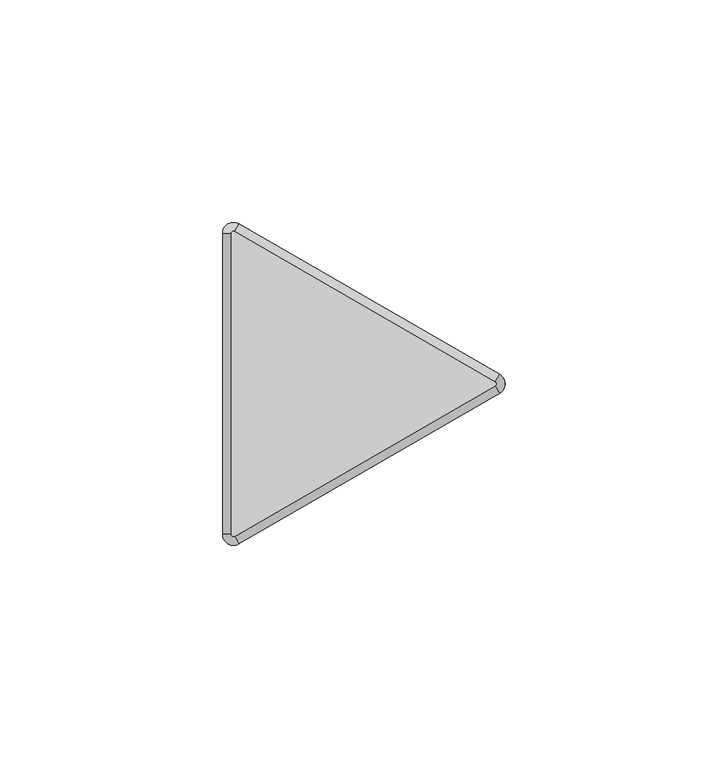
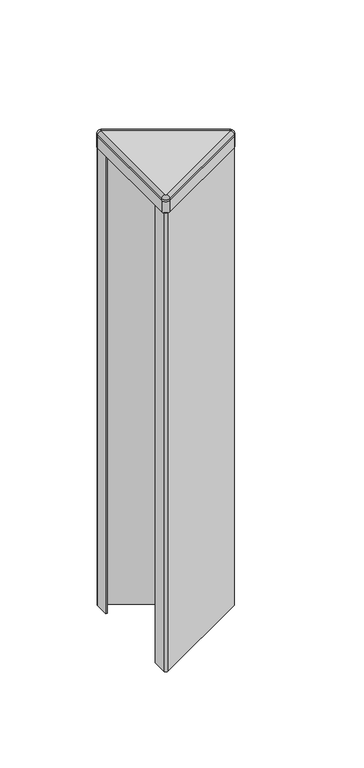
"""IFC4 building model written with IfcOpenShell, lengths in millimetres: furniture geometry, Steelcase - Answer Solution - Panel - 120deg Change-of-Height Trim - Thin : Y Corner - 12H for 84H App."""

from ifc_helpers import new_model, si_unit, point, frame, frame_2d, origin, place, context, project, spatial, polyline, circle_curve, ellipse_curve, trimmed, segment, composite_curve, outline, extrude, source, transform, mapped, element, save
from ifc_brep_helpers import plane_surface, cylinder_surface, revolved_surface, advanced_brep


def furniture_73f96da4(model_context):
    return source(origin(), model_context, "Body", "SolidModel", [
        advanced_brep(
        [(-10.518645, -37.3335529, 2138.0628978), (-14.2052101, -35.2051135, 2138.0628978), (-14.2052101, -35.2051135, 2137.1164663), (-10.518645, -37.3335529, 2137.1164663), (-11.46175, -35.7000471, 2139.95), (-12.319, -35.2051135, 2139.95), (-11.46175, -35.7000471, 2137.1164663), (-12.319, -35.2051135, 2137.1164663), (48.0429908, -3.5229767, 2137.1164663), (48.0429908, -3.5229767, 2138.0628978), (47.0998858, -1.8894709, 2139.95), (47.0998858, -1.8894709, 2137.1164663), (48.0429908, 0.733902, 2138.0628978), (48.0429908, 0.733902, 2137.1164663), (47.0998858, -0.8996038, 2139.95), (47.0998858, -0.8996038, 2137.1164663), (-10.518645, 34.5444782, 2137.1164663), (-14.2052101, 32.4160388, 2137.1164663), (-11.46175, 32.9109723, 2137.1164663), (-12.319, 32.4160388, 2137.1164663), (-10.518645, 34.5444782, 2138.0628978), (-11.46175, 32.9109723, 2139.95), (-14.2052101, 32.4160388, 2138.0628978), (-12.319, 32.4160388, 2139.95)],
        [
            (0, 1, circle_curve(frame((-11.7475, -35.2051135, 2138.0628978), z_axis=(0.0, 0.0, -1.0), x_axis=(-1.0, 0.0, 0.0)), 2.4577101)),
            (1, 2),
            (2, 3, circle_curve(frame((-11.7475, -35.2051135, 2137.1164663), z_axis=(0.0, 0.0, 1.0), x_axis=(-1.0, 0.0, 0.0)), 2.4577101)),
            (3, 0),
            (4, 5, circle_curve(frame((-11.7475, -35.2051135, 2139.95), z_axis=(0.0, 0.0, -1.0), x_axis=(-1.0, 0.0, 0.0)), 0.5715)),
            (5, 1, circle_curve(frame((-12.3181076, -35.2051135, 2138.0628978), z_axis=(0.0, -1.0, 0.0), x_axis=(1.0, 0.0, 0.0)), 1.8871024)),
            (0, 4, circle_curve(frame((-11.4621962, -35.6992743, 2138.0628978), z_axis=(-0.8660254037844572, -0.49999999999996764, 0.0), x_axis=(-0.49999999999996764, 0.8660254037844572, 0.0)), 1.8871024)),
            (6, 7, circle_curve(frame((-11.7475, -35.2051135, 2137.1164663), z_axis=(0.0, 0.0, -1.0), x_axis=(-1.0, 0.0, 0.0)), 0.5715)),
            (7, 5),
            (4, 6),
            (3, 8),
            (8, 9),
            (9, 0),
            (9, 10, circle_curve(frame((47.0994396, -1.8886981, 2138.0628978), z_axis=(-0.8660254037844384, -0.5000000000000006, 0.0), x_axis=(-0.5000000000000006, 0.8660254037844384, 0.0)), 1.8871024)),
            (10, 4),
            (10, 11),
            (11, 6),
            (12, 9, circle_curve(frame((46.8141358, -1.3945374, 2138.0628978), z_axis=(0.0, 0.0, -1.0), x_axis=(0.4999999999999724, -0.8660254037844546, 0.0)), 2.4577101)),
            (8, 13, circle_curve(frame((46.8141358, -1.3945374, 2137.1164663), z_axis=(0.0, 0.0, 1.0), x_axis=(0.4999999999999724, -0.8660254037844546, 0.0)), 2.4577101)),
            (13, 12),
            (14, 10, circle_curve(frame((46.8141358, -1.3945374, 2139.95), z_axis=(0.0, 0.0, -1.0), x_axis=(0.4999999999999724, -0.8660254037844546, 0.0)), 0.5715)),
            (12, 14, circle_curve(frame((47.0994396, -0.9003766, 2138.0628978), z_axis=(0.8660254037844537, -0.49999999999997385, 0.0), x_axis=(-0.49999999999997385, -0.8660254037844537, 0.0)), 1.8871024)),
            (15, 11, circle_curve(frame((46.8141358, -1.3945374, 2137.1164663), z_axis=(0.0, 0.0, -1.0), x_axis=(0.4999999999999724, -0.8660254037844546, 0.0)), 0.5715)),
            (14, 15),
            (16, 13),
            (2, 17),
            (17, 16, circle_curve(frame((-11.7475, 32.4160388, 2137.1164663), z_axis=(0.0, 0.0, -1.0), x_axis=(0.500000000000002, 0.8660254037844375, 0.0)), 2.4577101)),
            (15, 18),
            (18, 19, circle_curve(frame((-11.7475, 32.4160388, 2137.1164663), z_axis=(0.0, 0.0, 1.0), x_axis=(0.500000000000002, 0.8660254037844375, 0.0)), 0.5715)),
            (19, 7),
            (16, 20),
            (20, 12),
            (20, 21, circle_curve(frame((-11.4621962, 32.9101995, 2138.0628978), z_axis=(0.8660254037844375, -0.5000000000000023, 0.0), x_axis=(-0.5000000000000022, -0.8660254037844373, 0.0)), 1.8871024)),
            (21, 14),
            (21, 18),
            (22, 20, circle_curve(frame((-11.7475, 32.4160388, 2138.0628978), z_axis=(0.0, 0.0, -1.0), x_axis=(0.500000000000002, 0.8660254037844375, 0.0)), 2.4577101)),
            (17, 22),
            (23, 21, circle_curve(frame((-11.7475, 32.4160388, 2139.95), z_axis=(0.0, 0.0, -1.0), x_axis=(0.500000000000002, 0.8660254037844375, 0.0)), 0.5715)),
            (22, 23, circle_curve(frame((-12.3181076, 32.4160388, 2138.0628978), z_axis=(0.0, 1.0, 0.0), x_axis=(1.0, 0.0, 0.0)), 1.8871024)),
            (23, 19),
            (1, 22),
            (5, 23),
        ],
        [
            cylinder_surface(frame((-11.7475, -35.2051135, 0.0), z_axis=(0.0, 0.0, 1.0), x_axis=(-1.0, 0.0, 0.0)), 2.4577101),
            revolved_surface(trimmed(ellipse_curve(frame((-12.3181076, -35.2051135, 2138.0628978), z_axis=(0.0, 1.0, 0.0), x_axis=(1.0, 0.0, 0.0)), 1.8871024, 1.8871024), [point((-14.2052101, -35.2051135, 2138.0628978))], [point((-12.319, -35.2051135, 2139.95))], True, "CARTESIAN"), (-11.7475, -35.2051135, 0.0), (0.0, 0.0, 1.0)),
            revolved_surface(polyline([(-12.319, -35.2051135, 2139.95), (-12.319, -35.2051135, 2137.1164663)]), (-11.7475, -35.2051135, 0.0), (0.0, 0.0, 1.0)),
            plane_surface(frame((-10.518645, -37.3335529, 2137.1164663), z_axis=(0.49999999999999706, -0.8660254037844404, 0.0), x_axis=(0.8660254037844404, 0.49999999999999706, 0.0))),
            cylinder_surface(frame((-11.4621962, -35.6992743, 2138.0628978), z_axis=(-0.8660254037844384, -0.5000000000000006, 0.0), x_axis=(-0.5000000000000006, 0.8660254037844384, 0.0)), 1.8871024),
            plane_surface(frame((-11.46175, -35.7000471, 2139.95), z_axis=(-0.500000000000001, 0.8660254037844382, 0.0), x_axis=(0.8660254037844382, 0.500000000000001, 0.0))),
            cylinder_surface(frame((46.8141358, -1.3945374, 0.0), z_axis=(0.0, 0.0, 1.0), x_axis=(0.4999999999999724, -0.8660254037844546, 0.0)), 2.4577101),
            revolved_surface(trimmed(ellipse_curve(frame((47.0994396, -1.8886981, 2138.0628978), z_axis=(-0.8660254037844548, -0.499999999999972, 0.0), x_axis=(-0.499999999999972, 0.8660254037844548, 0.0)), 1.8871024, 1.8871024), [point((48.0429908, -3.5229767, 2138.0628978))], [point((47.0998858, -1.8894709, 2139.95))], True, "CARTESIAN"), (46.8141358, -1.3945374, 0.0), (0.0, 0.0, 1.0)),
            revolved_surface(polyline([(47.09988579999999, -1.8894709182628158, 2139.95), (47.09988579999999, -1.8894709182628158, 2137.1164663)]), (46.8141358, -1.3945374, 0.0), (0.0, 0.0, 1.0)),
            plane_surface(frame((47.0998858, -0.8996038, 2137.1164663), z_axis=(0.0, 0.0, -1.0), x_axis=(-0.8660254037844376, 0.5000000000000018, 0.0))),
            plane_surface(frame((48.0429908, 0.733902, 2137.1164663), z_axis=(0.49999999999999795, 0.8660254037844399, 0.0), x_axis=(-0.8660254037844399, 0.49999999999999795, 0.0))),
            cylinder_surface(frame((47.0994396, -0.9003766, 2138.0628978), z_axis=(0.8660254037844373, -0.5000000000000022, 0.0), x_axis=(-0.5000000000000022, -0.8660254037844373, 0.0)), 1.8871024),
            plane_surface(frame((47.0998858, -0.8996038, 2139.95), z_axis=(-0.5000000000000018, -0.8660254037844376, 0.0), x_axis=(-0.8660254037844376, 0.5000000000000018, 0.0))),
            cylinder_surface(frame((-11.7475, 32.4160388, 0.0), z_axis=(0.0, 0.0, 1.0), x_axis=(0.500000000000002, 0.8660254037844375, 0.0)), 2.4577101),
            revolved_surface(trimmed(ellipse_curve(frame((-11.4621962, 32.9101995, 2138.0628978), z_axis=(0.866025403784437, -0.5000000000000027, 0.0), x_axis=(-0.5000000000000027, -0.866025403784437, 0.0)), 1.8871024, 1.8871024), [point((-10.518645, 34.5444782, 2138.0628978))], [point((-11.46175, 32.9109723, 2139.95))], True, "CARTESIAN"), (-11.7475, 32.4160388, 0.0), (0.0, 0.0, 1.0)),
            revolved_surface(polyline([(-11.461749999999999, 32.91097231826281, 2139.95), (-11.461749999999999, 32.91097231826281, 2137.1164663)]), (-11.7475, 32.4160388, 0.0), (0.0, 0.0, 1.0)),
            plane_surface(frame((-14.2052101, 32.4160388, 2137.1164663), z_axis=(-1.0, 0.0, 0.0), x_axis=(0.0, -1.0, 0.0))),
            cylinder_surface(frame((-12.3181076, 32.4160388, 2138.0628978), z_axis=(0.0, 1.0, 0.0), x_axis=(1.0, 0.0, 0.0)), 1.8871024),
            plane_surface(frame((-12.319, 32.4160388, 2139.95), z_axis=(1.0, 0.0, 0.0), x_axis=(0.0, -1.0, 0.0))),
        ],
        [
            (0, [[1, 2, 3, 4]]),
            (1, [[5, 6, -1, 7]]),
            (2, [[8, 9, -5, 10]]),
            (3, [[-4, 11, 12, 13]]),
            (4, [[-7, -13, 14, 15]]),
            (5, [[-10, -15, 16, 17]]),
            (6, [[18, -12, 19, 20]]),
            (7, [[21, -14, -18, 22]]),
            (8, [[23, -16, -21, 24]]),
            (9, [[25, -19, -11, -3, 26, 27], [-8, -17, -23, 28, 29, 30]]),
            (10, [[-20, -25, 31, 32]]),
            (11, [[-22, -32, 33, 34]]),
            (12, [[-24, -34, 35, -28]]),
            (13, [[36, -31, -27, 37]]),
            (14, [[38, -33, -36, 39]]),
            (15, [[-29, -35, -38, 40]]),
            (16, [[-37, -26, -2, 41]]),
            (17, [[-39, -41, -6, 42]]),
            (18, [[-40, -42, -9, -30]]),
        ],
    ),
        extrude(outline(composite_curve([segment(trimmed(circle_curve(frame_2d((47.9522001, -1.3945374)), 1.2978651), [point((48.6011327, -0.2705532))], [point((48.6011327, -2.5185215))], False, "CARTESIAN"), True, "CONTINUOUS"), segment(polyline([(48.6011327, -2.5185215), (-11.6879343, -37.3264306)]), True, "CONTINUOUS"), segment(trimmed(circle_curve(frame_2d((-12.3300896, -36.2141852)), 1.2843104), [point((-11.6879343, -37.3264306))], [point((-13.6144, -36.2141852))], False, "CARTESIAN"), True, "CONTINUOUS"), segment(polyline([(-13.6144, -36.2141852), (-13.6144, -27.3303775), (-12.7, -27.3303775), (-12.7, -36.8548888), (48.7191304, -1.3945374), (-12.7, 34.0658141), (-12.7, 24.5413027), (-13.6144, 24.5413027), (-13.6144, 33.4106259)]), True, "CONTINUOUS"), segment(trimmed(circle_curve(frame_2d((-12.3217269, 33.4106259)), 1.2926731), [point((-13.6144, 33.4106259))], [point((-11.6753904, 34.5301136))], False, "CARTESIAN"), True, "CONTINUOUS"), segment(polyline([(-11.6753904, 34.5301136), (48.6011327, -0.2705532)]), True, "CONTINUOUS")], self_intersect=False)), frame((0.0, 0.0, 1835.15), z_axis=(0.0, 0.0, 1.0), x_axis=(1.0, 0.0, 0.0)), (0.0, 0.0, 1.0), 294.64),
        extrude(outline(composite_curve([segment(trimmed(circle_curve(frame_2d((46.8261011, -1.3945374)), 0.5655173), [point((47.1088598, -0.904785))], [point((47.1088598, -1.8842897))], False, "CARTESIAN"), True, "CONTINUOUS"), segment(polyline([(47.1088598, -1.8842897), (-11.4505119, -35.6935587)]), True, "CONTINUOUS"), segment(trimmed(circle_curve(frame_2d((-11.7400079, -35.1921369)), 0.5789921), [point((-11.4505119, -35.6935587))], [point((-12.319, -35.1921369))], False, "CARTESIAN"), True, "CONTINUOUS"), segment(polyline([(-12.319, -35.1921369), (-12.319, 32.3985888)]), True, "CONTINUOUS"), segment(trimmed(circle_curve(frame_2d((-11.7374252, 32.3985888)), 0.5815748), [point((-12.319, 32.3985888))], [point((-11.4466378, 32.9022473))], False, "CARTESIAN"), True, "CONTINUOUS"), segment(polyline([(-11.4466378, 32.9022473), (47.1088598, -0.904785)]), True, "CONTINUOUS")], self_intersect=False)), frame((0.0, 0.0, 2137.1164663), z_axis=(0.0, 0.0, 1.0), x_axis=(1.0, 0.0, 0.0)), (0.0, 0.0, 1.0), 2.8335337),
        extrude(outline(composite_curve([segment(trimmed(circle_curve(frame_2d((46.8140443, -1.3945374)), 2.4577558), [point((48.0429222, 0.7339416))], [point((48.0429222, -3.5230163))], False, "CARTESIAN"), True, "CONTINUOUS"), segment(polyline([(48.0429222, -3.5230163), (-10.518058, -37.333214)]), True, "CONTINUOUS"), segment(trimmed(circle_curve(frame_2d((-11.7471087, -35.2044357)), 2.4581014), [point((-10.518058, -37.333214))], [point((-14.2052101, -35.2044357))], False, "CARTESIAN"), True, "CONTINUOUS"), segment(polyline([(-14.2052101, -35.2044357), (-14.2052101, 32.4160388)]), True, "CONTINUOUS"), segment(trimmed(circle_curve(frame_2d((-11.7475, 32.4160388)), 2.4577101), [point((-14.2052101, 32.4160388))], [point((-10.518645, 34.5444782))], False, "CARTESIAN"), True, "CONTINUOUS"), segment(polyline([(-10.518645, 34.5444782), (48.0429222, 0.7339416)]), True, "CONTINUOUS")], self_intersect=False)), frame((0.0, 0.0, 2129.79), z_axis=(0.0, 0.0, 1.0), x_axis=(1.0, 0.0, 0.0)), (0.0, 0.0, 1.0), 7.3264663),
    ])


if __name__ == "__main__":
    model = new_model("IFC4")
    model_context = context("Model", 3, world=origin())
    ifc_project = project(units=[si_unit("LENGTHUNIT", "METRE", prefix="MILLI")], contexts=[model_context])
    site = spatial("IfcSite", under=ifc_project)
    building = spatial("IfcBuilding", under=site)
    placement = place(None, origin())
    furniture_shape = furniture_73f96da4(model_context)
    element("IfcFurniture", 1, ObjectType="Steelcase - Answer Solution - Panel - 120deg Change-of-Height Trim - Thin : Y Corner - 12H for 84H App", at=placement, inside=building, context=model_context, shape_type="MappedRepresentation", body=[
        mapped(furniture_shape, transform((0.0, 0.0, 0.0), x_axis=(1.0, 0.0, 0.0), y_axis=(0.0, 1.0, 0.0), z_axis=(0.0, 0.0, 1.0))),
    ])
    save(model, "model.ifc")
